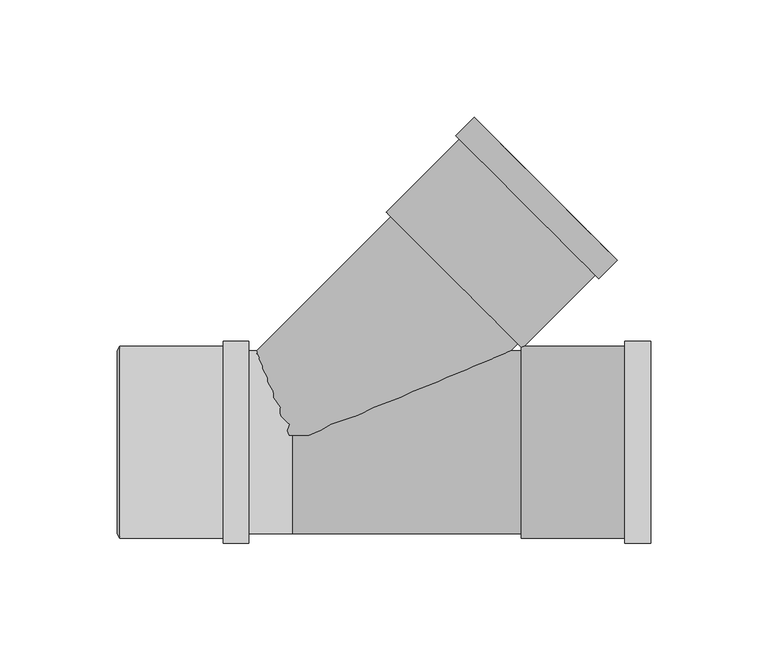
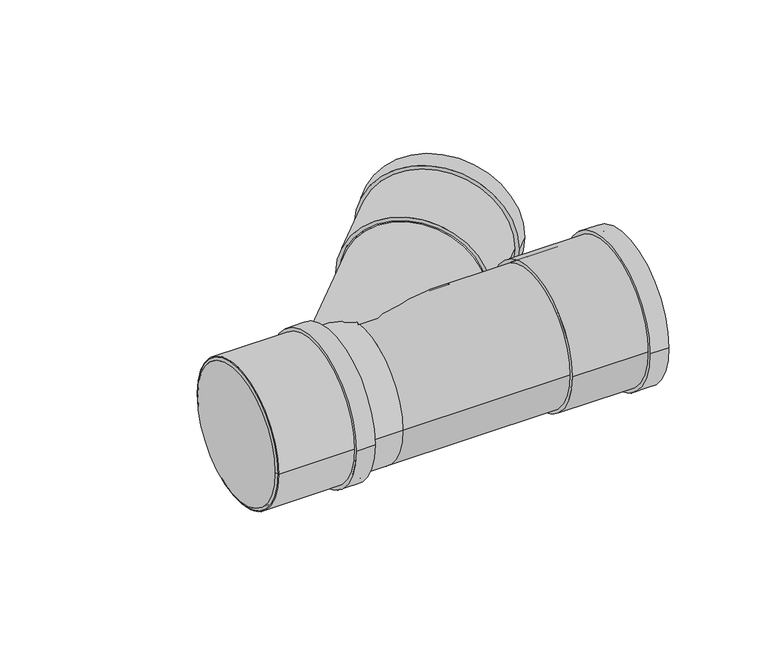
"""IFC4 building model written with IfcOpenShell, lengths in millimetres: pipe fitting geometry, Superdrain SKEA Branch : Superdrain SKEA Branch."""

from ifc_helpers import new_model, si_unit, point, frame, origin, origin_2d, place, context, project, spatial, polyline, circle_curve, ellipse_curve, trimmed, segment, composite_curve, outline, extrude, source, transform, mapped, element, save
from ifc_brep_helpers import plane_surface, cylinder_surface, revolved_surface, advanced_brep


def pipe_fitting_39af7424(model_context):
    return source(origin(), model_context, "Body", "SolidModel", [
        extrude(outline(composite_curve([segment(trimmed(circle_curve(origin_2d(), 40.95), [point((40.95, 0.0))], [point((-40.95, 0.0))], False, "CARTESIAN"), True, "CONTINUOUS"), segment(trimmed(circle_curve(origin_2d(), 40.95), [point((-40.95, 0.0))], [point((40.95, 0.0))], False, "CARTESIAN"), True, "CONTINUOUS")], self_intersect=False), holes=[composite_curve([segment(trimmed(circle_curve(origin_2d(), 39.0), [point((39.0, 0.0))], [point((-39.0, 0.0))], True, "CARTESIAN"), True, "CONTINUOUS"), segment(trimmed(circle_curve(origin_2d(), 39.0), [point((-39.0, 0.0))], [point((39.0, 0.0))], True, "CARTESIAN"), True, "CONTINUOUS")], self_intersect=False)]), frame((-73.4, 0.0, 0.0), z_axis=(1.0, 0.0, 0.0), x_axis=(0.0, 1.0, 0.0)), (0.0, 0.0, 1.0), 55.0),
        extrude(outline(composite_curve([segment(trimmed(circle_curve(origin_2d(), 42.9975), [point((42.9975, 0.0))], [point((-42.9975, 0.0))], False, "CARTESIAN"), True, "CONTINUOUS"), segment(trimmed(circle_curve(origin_2d(), 42.9975), [point((-42.9975, 0.0))], [point((42.9975, 0.0))], False, "CARTESIAN"), True, "CONTINUOUS")], self_intersect=False), holes=[composite_curve([segment(trimmed(circle_curve(origin_2d(), 39.0), [point((39.0, 0.0))], [point((-39.0, 0.0))], True, "CARTESIAN"), True, "CONTINUOUS"), segment(trimmed(circle_curve(origin_2d(), 39.0), [point((-39.0, 0.0))], [point((39.0, 0.0))], True, "CARTESIAN"), True, "CONTINUOUS")], self_intersect=False)]), frame((-29.4, 0.0, 0.0), z_axis=(1.0, 0.0, 0.0), x_axis=(0.0, 1.0, 0.0)), (0.0, 0.0, 1.0), 11.0),
        advanced_brep(
        [(-74.4, 39.0, 0.0), (-74.4, -39.0, 0.0), (-73.4, 40.95, 0.0), (-73.4, -40.95, 0.0)],
        [
            (0, 1, circle_curve(frame((-74.4, 0.0, 0.0), z_axis=(-1.0, 0.0, 0.0), x_axis=(0.0, 1.0000000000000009, 0.0)), 39.0)),
            (1, 0, circle_curve(frame((-74.4, 0.0, 0.0), z_axis=(-1.0, 0.0, 0.0), x_axis=(0.0, -1.0000000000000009, 0.0)), 39.0)),
            (2, 3, circle_curve(frame((-73.4, 0.0, 0.0), z_axis=(1.0, 0.0, 0.0), x_axis=(0.0, -1.0000000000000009, 0.0)), 40.95)),
            (3, 2, circle_curve(frame((-73.4, 0.0, 0.0), z_axis=(1.0, 0.0, 0.0), x_axis=(0.0, 1.0000000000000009, 0.0)), 40.95)),
            (3, 1),
            (0, 2),
        ],
        [
            plane_surface(frame((-74.4, 0.0, 0.0), z_axis=(-1.0, 0.0, 0.0), x_axis=(0.0, 0.0, -1.0))),
            plane_surface(frame((-73.4, 0.0, 0.0), z_axis=(1.0, 0.0, 0.0), x_axis=(0.0, 0.0, -1.0))),
            revolved_surface(polyline([(-74.4, 38.99999999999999, 0.0), (-73.4, 40.95, 0.0)]), (-94.4, 0.0, 0.0), (1.0000000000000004, 0.0, 0.0)),
            revolved_surface(polyline([(-74.4, -38.99999999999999, 0.0), (-73.4, -40.95, 0.0)]), (-94.4, 0.0, 0.0), (1.0000000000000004, 0.0, 0.0)),
        ],
        [
            (0, [[1, 2]]),
            (1, [[3, 4]]),
            (2, [[-4, 5, -1, 6]]),
            (3, [[-3, -6, -2, -5]]),
        ],
    ),
        advanced_brep(
        [(96.039243, 41.9880007, 0.0), (41.9880007, 96.039243, 0.0), (-15.8312424, 38.22, 0.0), (0.0, 0.0, 38.22), (92.2712424, 38.22, 0.0), (0.0, 0.0, -38.22)],
        [
            (0, 1, circle_curve(frame((69.0136218, 69.0136218, 0.0), z_axis=(0.7071067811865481, 0.707106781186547, 0.0), x_axis=(-0.707106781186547, 0.7071067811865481, 0.0)), 38.22)),
            (1, 0, circle_curve(frame((69.0136218, 69.0136218, 0.0), z_axis=(0.7071067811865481, 0.707106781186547, 0.0), x_axis=(-0.707106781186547, 0.7071067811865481, 0.0)), 38.22)),
            (1, 2),
            (2, 3, ellipse_curve(frame((0.0, 0.0, 0.0), z_axis=(0.923879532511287, 0.38268343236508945, 0.0), x_axis=(0.38268343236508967, -0.923879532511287, 0.0)), 41.3690299, 38.22)),
            (3, 4, ellipse_curve(frame((0.0, 0.0, 0.0), z_axis=(-0.3826834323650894, 0.9238795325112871, 0.0), x_axis=(-0.9238795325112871, -0.38268343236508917, 0.0)), 99.873673, 38.22)),
            (4, 0),
            (4, 5, ellipse_curve(frame((0.0, 0.0, 0.0), z_axis=(-0.3826834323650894, 0.9238795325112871, 0.0), x_axis=(-0.9238795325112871, -0.38268343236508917, 0.0)), 99.873673, 38.22)),
            (5, 2, ellipse_curve(frame((0.0, 0.0, 0.0), z_axis=(0.923879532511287, 0.38268343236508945, 0.0), x_axis=(0.38268343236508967, -0.923879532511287, 0.0)), 41.3690299, 38.22)),
            (2, 4),
        ],
        [
            plane_surface(frame((69.0136218, 69.0136218, 0.0), z_axis=(0.7071067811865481, 0.707106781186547, 0.0), x_axis=(0.0, 0.0, 1.0))),
            cylinder_surface(frame((0.0, 0.0, 0.0), z_axis=(-0.7071067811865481, -0.707106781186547, 0.0), x_axis=(-0.707106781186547, 0.7071067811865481, 0.0)), 38.22),
            revolved_surface(polyline([(-92.27124232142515, 38.22, 0.0), (92.2712424, 38.22, 0.0)]), (-78.4, 0.0, 0.0), (-1.0, 0.0, 0.0)),
        ],
        [
            (0, [[1, 2]]),
            (1, [[-2, 3, 4, 5, 6]]),
            (1, [[-1, -6, 7, 8, -3]]),
            (2, [[9, -5, -4]]),
            (2, [[-9, -8, -7]]),
        ],
    ),
        advanced_brep(
        [(97.6, -40.95, 0.0), (97.6, 40.95, 0.0), (152.6, -40.95, 0.0), (152.6, 40.95, 0.0), (152.6, -39.0, 0.0), (152.6, 39.0, 0.0), (98.6, -39.0, 0.0), (98.6, 39.0, 0.0)],
        [
            (0, 1, circle_curve(frame((97.6, 0.0, 0.0), z_axis=(-1.0, 0.0, 0.0), x_axis=(0.0, 1.0, 0.0)), 40.95)),
            (1, 0, circle_curve(frame((97.6, 0.0, 0.0), z_axis=(-1.0, 0.0, 0.0), x_axis=(0.0, 1.0, 0.0)), 40.95)),
            (2, 3, circle_curve(frame((152.6, 0.0, 0.0), z_axis=(1.0, 0.0, 0.0), x_axis=(0.0, 1.0, 0.0)), 40.95)),
            (3, 2, circle_curve(frame((152.6, 0.0, 0.0), z_axis=(1.0, 0.0, 0.0), x_axis=(0.0, 1.0, 0.0)), 40.95)),
            (4, 5, circle_curve(frame((152.6, 0.0, 0.0), z_axis=(-1.0, 0.0, 0.0), x_axis=(0.0, 1.0, 0.0)), 39.0)),
            (5, 4, circle_curve(frame((152.6, 0.0, 0.0), z_axis=(-1.0, 0.0, 0.0), x_axis=(0.0, 1.0, 0.0)), 39.0)),
            (0, 2),
            (3, 1),
            (6, 7, circle_curve(frame((98.6, 0.0, 0.0), z_axis=(-1.0, 0.0, 0.0), x_axis=(0.0, 1.0, 0.0)), 39.0)),
            (7, 5),
            (4, 6),
            (7, 6, circle_curve(frame((98.6, 0.0, 0.0), z_axis=(-1.0, 0.0, 0.0), x_axis=(0.0, 1.0, 0.0)), 39.0)),
        ],
        [
            plane_surface(frame((97.6, 0.0, 0.0), z_axis=(-1.0, 0.0, 0.0), x_axis=(0.0, 0.0, 1.0))),
            plane_surface(frame((152.6, 0.0, 0.0), z_axis=(1.0, 0.0, 0.0), x_axis=(0.0, 0.0, 1.0))),
            cylinder_surface(frame((97.6, 0.0, 0.0), z_axis=(-1.0, 0.0, 0.0), x_axis=(0.0, 1.0, 0.0)), 40.95),
            revolved_surface(polyline([(98.6, 39.0, 0.0), (152.6, 39.0, 0.0)]), (98.6, 0.0, 0.0), (-1.0, 0.0, 0.0)),
            plane_surface(frame((98.6, 0.0, 0.0), z_axis=(1.0, 0.0, 0.0), x_axis=(0.0, 0.0, 1.0))),
        ],
        [
            (0, [[1, 2]]),
            (1, [[3, 4], [5, 6]]),
            (2, [[-1, 7, -4, 8]]),
            (2, [[-2, -8, -3, -7]]),
            (3, [[9, 10, -5, 11]]),
            (3, [[12, -11, -6, -10]]),
            (4, [[-12, -9]]),
        ],
    ),
        extrude(outline(composite_curve([segment(trimmed(circle_curve(origin_2d(), 42.9975), [point((42.9975, 0.0))], [point((-42.9975, 0.0))], False, "CARTESIAN"), True, "CONTINUOUS"), segment(trimmed(circle_curve(origin_2d(), 42.9975), [point((-42.9975, 0.0))], [point((42.9975, 0.0))], False, "CARTESIAN"), True, "CONTINUOUS")], self_intersect=False), holes=[composite_curve([segment(trimmed(circle_curve(origin_2d(), 39.0), [point((39.0, 0.0))], [point((-39.0, 0.0))], True, "CARTESIAN"), True, "CONTINUOUS"), segment(trimmed(circle_curve(origin_2d(), 39.0), [point((-39.0, 0.0))], [point((39.0, 0.0))], True, "CARTESIAN"), True, "CONTINUOUS")], self_intersect=False)]), frame((141.6, 0.0, 0.0), z_axis=(1.0, 0.0, 0.0), x_axis=(0.0, 1.0, 0.0)), (0.0, 0.0, 1.0), 11.0),
        extrude(outline(composite_curve([segment(trimmed(circle_curve(origin_2d(), 39.0), [point((39.0, 0.0))], [point((-39.0, 0.0))], False, "CARTESIAN"), True, "CONTINUOUS"), segment(trimmed(circle_curve(origin_2d(), 39.0), [point((-39.0, 0.0))], [point((39.0, 0.0))], False, "CARTESIAN"), True, "CONTINUOUS")], self_intersect=False)), frame((-73.4, 0.0, 0.0), z_axis=(1.0, 0.0, 0.0), x_axis=(0.0, 1.0, 0.0)), (0.0, 0.0, 1.0), 73.4),
        extrude(outline(composite_curve([segment(trimmed(circle_curve(origin_2d(), 39.0), [point((-39.0, 0.0))], [point((39.0, 0.0))], False, "CARTESIAN"), True, "CONTINUOUS"), segment(trimmed(circle_curve(origin_2d(), 39.0), [point((39.0, 0.0))], [point((-39.0, 0.0))], False, "CARTESIAN"), True, "CONTINUOUS")], self_intersect=False)), frame((0.0, 0.0, 0.0), z_axis=(1.0, 0.0, 0.0), x_axis=(0.0, 1.0, 0.0)), (0.0, 0.0, 1.0), 97.6),
        extrude(outline(composite_curve([segment(trimmed(circle_curve(origin_2d(), 42.9975), [point((0.0, 42.9975))], [point((0.0, -42.9975))], False, "CARTESIAN"), True, "CONTINUOUS"), segment(trimmed(circle_curve(origin_2d(), 42.9975), [point((0.0, -42.9975))], [point((0.0, 42.9975))], False, "CARTESIAN"), True, "CONTINUOUS")], self_intersect=False), holes=[composite_curve([segment(trimmed(circle_curve(origin_2d(), 39.0), [point((0.0, 39.0))], [point((0.0, -39.0))], True, "CARTESIAN"), True, "CONTINUOUS"), segment(trimmed(circle_curve(origin_2d(), 39.0), [point((0.0, -39.0))], [point((0.0, 39.0))], True, "CARTESIAN"), True, "CONTINUOUS")], self_intersect=False)]), frame((100.1263202, 100.1263202, 0.0), z_axis=(0.7071067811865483, 0.7071067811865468, 0.0), x_axis=(0.0, 0.0, 1.0)), (0.0, 0.0, 1.0), 11.0),
        extrude(outline(composite_curve([segment(trimmed(circle_curve(origin_2d(), 40.95), [point((0.0, 40.9499999))], [point((0.0, -40.9499999))], False, "CARTESIAN"), True, "CONTINUOUS"), segment(trimmed(circle_curve(origin_2d(), 40.95), [point((0.0, -40.9499999))], [point((0.0, 40.9499999))], False, "CARTESIAN"), True, "CONTINUOUS")], self_intersect=False), holes=[composite_curve([segment(trimmed(circle_curve(origin_2d(), 39.0), [point((0.0, 39.0))], [point((0.0, -39.0))], True, "CARTESIAN"), True, "CONTINUOUS"), segment(trimmed(circle_curve(origin_2d(), 39.0), [point((0.0, -39.0))], [point((0.0, 39.0))], True, "CARTESIAN"), True, "CONTINUOUS")], self_intersect=False)]), frame((69.0136218, 69.0136218, 0.0), z_axis=(0.707106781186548, 0.7071067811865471, 0.0), x_axis=(0.0, 0.0, 1.0)), (0.0, 0.0, 1.0), 55.0),
    ])


if __name__ == "__main__":
    model = new_model("IFC4")
    model_context = context("Model", 3, world=origin())
    ifc_project = project(units=[si_unit("LENGTHUNIT", "METRE", prefix="MILLI")], contexts=[model_context])
    site = spatial("IfcSite", under=ifc_project)
    building = spatial("IfcBuilding", under=site)
    placement = place(None, origin())
    pipe_fitting_shape = pipe_fitting_39af7424(model_context)
    element("IfcPipeFitting", 1, ObjectType="Superdrain SKEA Branch : Superdrain SKEA Branch", at=placement, inside=building, context=model_context, shape_type="MappedRepresentation", body=[
        mapped(pipe_fitting_shape, transform((0.0, 0.0, 0.0), x_axis=(1.0, 0.0, 0.0), y_axis=(0.0, 1.0, 0.0), z_axis=(0.0, 0.0, 1.0))),
    ])
    save(model, "model.ifc")
